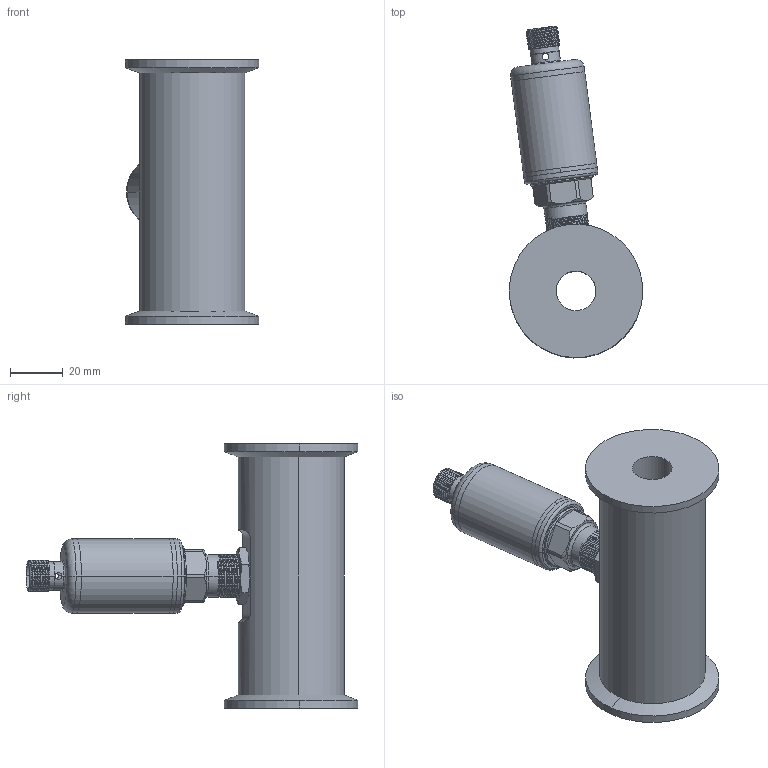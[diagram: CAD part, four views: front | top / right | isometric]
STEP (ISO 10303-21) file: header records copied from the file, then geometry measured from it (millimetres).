
FILE_DESCRIPTION (( 'STEP AP214' ), '1' );
FILE_NAME ('BFW1K15-J.STEP', '2026-01-20T07:18:22', ( '' ), ( '' ), 'SwSTEP 2.0', 'SolidWorks 2023', '' );
FILE_SCHEMA (( 'AUTOMOTIVE_DESIGN' ));
Length unit declared in the file: millimetre
Products named in the file (8): 壳体; 连接管; 探头; 压力变送器; DN15卡盘主华东; BFW1K15-J; M16螺母; 垫片
Assembly tree (7 placements, depth 3):
  BFW1K15-J
    压力变送器
      壳体
      垫片
      连接管
      探头
    M16螺母
    DN15卡盘主华东
Bounding box: 50.45 x 125.45 x 100 mm (x, y, z)
Volume: 123788.7 mm3; surface area: 40275.8 mm2
Topology: 6 solids, 6 shells, 239 faces, 600 edges, 385 vertices
Faces by surface type: cylinder 130, cone 52, plane 43, torus 8, bspline 6
Entity records: 11568 total; most frequent: CARTESIAN_POINT 5949, ORIENTED_EDGE 1200, DIRECTION 1072, EDGE_CURVE 600, AXIS2_PLACEMENT_3D 430, VERTEX_POINT 385, EDGE_LOOP 271, FACE_OUTER_BOUND 239
